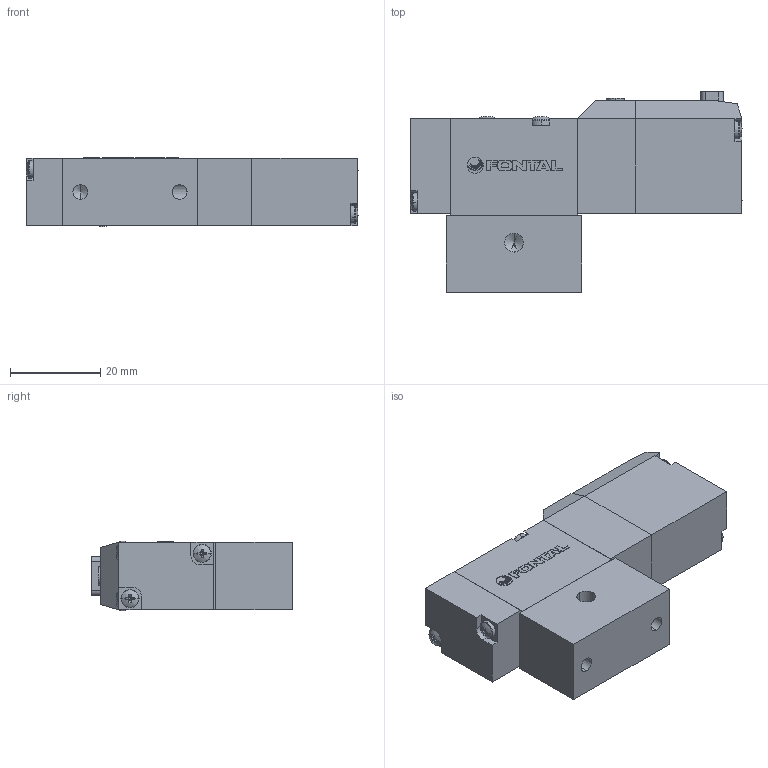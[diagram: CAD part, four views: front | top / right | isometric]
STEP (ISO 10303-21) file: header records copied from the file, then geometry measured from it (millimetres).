
FILE_DESCRIPTION (( 'STEP AP203' ), '1' );
FILE_NAME ('PCS245#-M5-#-U-#.STEP', '2016-02-04T03:54:10', ( 'Sam Lin' ), ( '' ), 'SwSTEP 2.0', 'SolidWorks 2013', '' );
FILE_SCHEMA (( 'CONFIG_CONTROL_DESIGN' ));
Length unit declared in the file: metre
Products named in the file (10): PCS245#-M5-#-U-#; PC5-2; ISO 7045 - M2 x 10; PC5-5; PC-MARK; PC5-6; PC5-4; ISO 7045 - M2.5 x 25; PC5-3-U; PC5-1
Assembly tree (13 placements, depth 2):
  PCS245#-M5-#-U-#
    PC5-1
    PC5-2
    ISO 7045 - M2 x 10  x4
    PC5-5
    PC-MARK
    PC5-6
    PC5-4
    ISO 7045 - M2.5 x 25  x2
    PC5-3-U
Bounding box: 73.64 x 44.5 x 15.4 mm (x, y, z)
Volume: 31558.8 mm3; surface area: 13423.4 mm2
Topology: 19 solids, 19 shells, 475 faces, 1167 edges, 722 vertices
Faces by surface type: plane 263, cylinder 93, cone 75, bspline 44
Entity records: 10555 total; most frequent: CARTESIAN_POINT 2221, ORIENTED_EDGE 1494, DIRECTION 1465, EDGE_CURVE 747, AXIS2_PLACEMENT_3D 506, VERTEX_POINT 482, VECTOR 453, LINE 453
